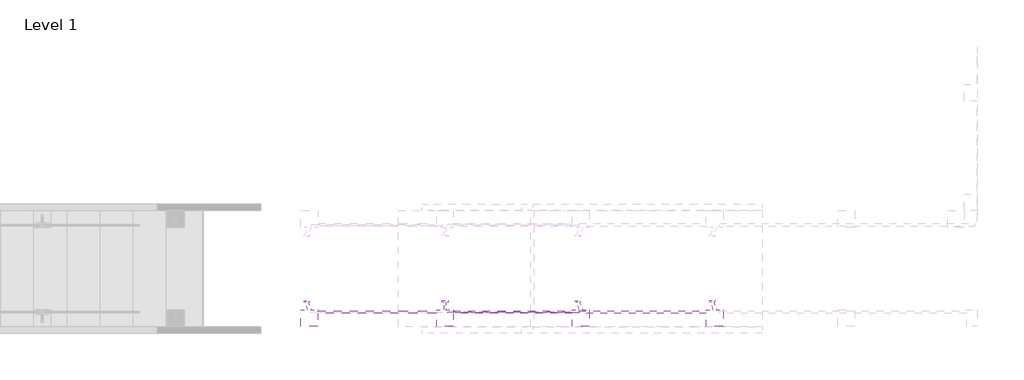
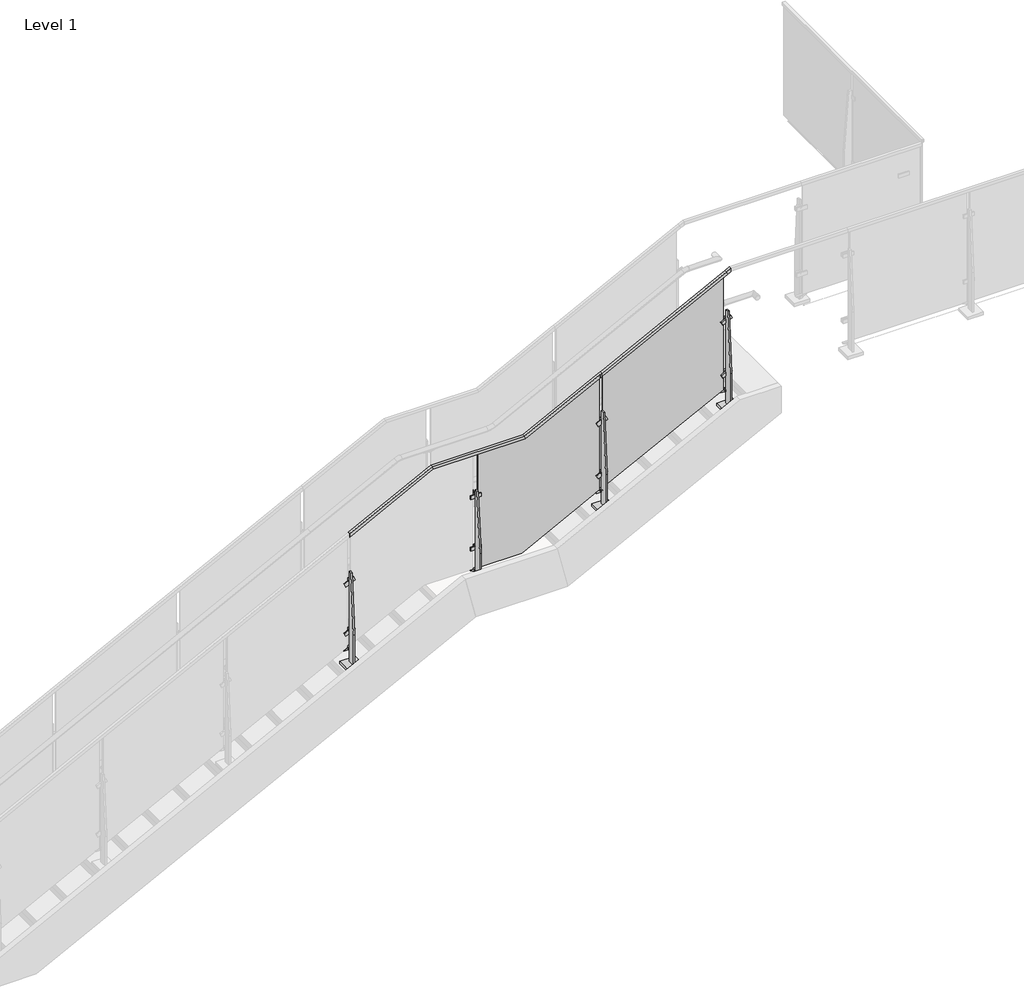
# One storey, part 23 of 37: 3 railings.
"""IFC4 building model written with IfcOpenShell, lengths in millimetres."""

from ifc_helpers import new_model, si_unit, point, frame, frame_2d, origin, place, context, project, spatial, polyline, circle_curve, trimmed, segment, composite_curve, outline, extrude, faceted_brep, transform, mapped, element, save
from components import baluster_landing_panel_viva_solo_upper_standard_glass_fb48f398

model = new_model("IFC4")

# Units and contexts
model_context = context("Model", 3, world=origin())
ifc_project = project(units=[si_unit("LENGTHUNIT", "METRE", prefix="MILLI")], contexts=[model_context])

# Site, building, storey
site = spatial("IfcSite", under=ifc_project)
building = spatial("IfcBuilding", under=site)
storey = spatial("IfcBuildingStorey", under=building, Name="Level 1", Elevation=0.0)

# Railings
placement = place(None, origin())
baluster_landing_panel_viva_solo_upper_standard_glass_shape = baluster_landing_panel_viva_solo_upper_standard_glass_fb48f398(model_context)
element("IfcRailing", 1, ObjectType="Baluster-Landing-Panel-VIVA-SOLO-Upper : Standard_Glass", at=placement, inside=storey, context=model_context, shape_type="MappedRepresentation", body=[
    mapped(baluster_landing_panel_viva_solo_upper_standard_glass_shape, transform((7346.0498081, 3769.9019198, 2120.3478261), x_axis=(0.0, 1.0, 0.0), y_axis=(-1.0, 0.0, 0.0), z_axis=(0.0, 0.0, 1.0))),
])
element("IfcRailing", 2, ObjectType="VIVA-SOLO-Glass-Floor Mount-Landing", at=placement, inside=storey, context=model_context, shape_type="SolidModel", body=[
    faceted_brep([(5228.4873344, 3796.747149, 2882.4016967), (5228.4873344, 3818.972149, 2882.4016967), (5228.4873344, 3818.972149, 2853.9005081), (5228.4873344, 3814.209649, 2853.9005081), (5228.4873344, 3814.209649, 2877.0577238), (5228.4873344, 3801.509649, 2877.0577238), (5228.4873344, 3801.509649, 2853.9005081), (5228.4873344, 3796.747149, 2853.9005081), (5926.9873344, 3796.747149, 3237.9478261), (5926.9873344, 3818.972149, 3237.9478261), (5933.0798778, 3818.972149, 3212.5478261), (5933.0798778, 3814.209649, 3212.5478261), (5928.1296863, 3814.209649, 3233.1853261), (5928.1296863, 3801.509649, 3233.1853261), (5933.0798778, 3801.509649, 3212.5478261), (5933.0798778, 3796.747149, 3212.5478261), (6708.0373344, 3796.747149, 3237.9478261), (6708.0373344, 3818.972149, 3237.9478261), (6714.1298778, 3818.972149, 3212.5478261), (6714.1298778, 3814.209649, 3212.5478261), (6709.1796863, 3814.209649, 3233.1853261), (6709.1796863, 3801.509649, 3233.1853261), (6714.1298778, 3801.509649, 3212.5478261), (6714.1298778, 3796.747149, 3212.5478261), (7362.0873344, 3796.747149, 3570.8682927), (7362.0873344, 3796.747149, 3542.3671041), (7362.0873344, 3801.509649, 3542.3671041), (7362.0873344, 3801.509649, 3565.5243198), (7362.0873344, 3814.209649, 3565.5243198), (7362.0873344, 3814.209649, 3542.3671041), (7362.0873344, 3818.972149, 3542.3671041), (7362.0873344, 3818.972149, 3570.8682927)], [[[0, 1, 2, 3, 4, 5, 6, 7]], [[1, 0, 8, 9]], [[2, 1, 9, 10]], [[3, 2, 10, 11]], [[4, 3, 11, 12]], [[5, 4, 12, 13]], [[6, 5, 13, 14]], [[7, 6, 14, 15]], [[0, 7, 15, 8]], [[9, 8, 16, 17]], [[10, 9, 17, 18]], [[11, 10, 18, 19]], [[12, 11, 19, 20]], [[13, 12, 20, 21]], [[14, 13, 21, 22]], [[15, 14, 22, 23]], [[8, 15, 23, 16]], [[24, 25, 26, 27, 28, 29, 30, 31]], [[17, 16, 24, 31]], [[18, 17, 31, 30]], [[19, 18, 30, 29]], [[20, 19, 29, 28]], [[21, 20, 28, 27]], [[22, 21, 27, 26]], [[23, 22, 26, 25]], [[16, 23, 25, 24]]]),
    extrude(outline(polyline([(3791.984649, 2907.7478261), (3791.984649, 2120.3478261), (3728.484649, 2120.3478261), (3728.484649, 2374.3478261), (3766.584649, 2907.7478261), (3791.984649, 2907.7478261)])), frame((6288.9373344, 0.0, 0.0), z_axis=(1.0, 0.0, 0.0), x_axis=(0.0, 1.0, 0.0)), (0.0, 0.0, 1.0), 12.7),
    extrude(outline(composite_curve([segment(polyline([(3885.9804058, 2898.1528559), (3887.3575153, 2900.5380794)]), True, "CONTINUOUS"), segment(trimmed(circle_curve(frame_2d((3892.4038669, 2925.43174)), 25.4), [point((3887.3575153, 2900.5380794))], [point((3898.7900802, 2900.8476744))], True, "CARTESIAN"), True, "CONTINUOUS"), segment(polyline([(3898.7900802, 2900.8476744), (3898.7900802, 2898.1431499)]), True, "CONTINUOUS"), segment(trimmed(circle_curve(frame_2d((3892.4038669, 2922.7272155)), 25.4), [point((3898.7900802, 2898.1431499))], [point((3885.9804058, 2898.1528559))], False, "CARTESIAN"), True, "CONTINUOUS")], self_intersect=False)), frame((6269.8833871, 0.0, 0.0), z_axis=(1.0, 0.0, 0.0), x_axis=(0.0, 1.0, 0.0)), (0.0, 0.0, 1.0), 51.8675839),
    extrude(outline(polyline([(3898.347149, 2897.9541454), (3898.347149, 2894.7791454), (3834.847149, 2832.8666454), (3823.734649, 2832.8666454), (3823.734649, 2863.0291454), (3826.909649, 2863.0291454), (3885.647149, 2894.7791454), (3885.647149, 2897.9541454), (3898.347149, 2897.9541454)])), frame((6288.7819804, 0.0, 0.0), z_axis=(1.0, 0.0, 0.0), x_axis=(0.0, 1.0, 0.0)), (0.0, 0.0, 1.0), 12.6482649),
    extrude(outline(polyline([(6361.1685844, 3826.115899), (6361.1685844, 3694.353399), (6229.4060844, 3694.353399), (6229.4060844, 3826.115899), (6361.1685844, 3826.115899)])), frame((0.0, 0.0, 2120.3478261), z_axis=(0.0, 0.0, 1.0), x_axis=(1.0, 0.0, 0.0)), (0.0, 0.0, 1.0), 25.4),
    extrude(outline(polyline([(6250.8373344, 3801.509649), (6339.7373344, 3801.509649), (6339.7373344, 3791.984649), (6250.8373344, 3791.984649), (6250.8373344, 3801.509649)])), frame((0.0, 0.0, 2372.3388955), z_axis=(0.0, 0.0, 1.0), x_axis=(1.0, 0.0, 0.0)), (0.0, 0.0, 1.0), 31.75),
    extrude(outline(polyline([(6250.8373344, 3801.509649), (6339.7373344, 3801.509649), (6339.7373344, 3791.984649), (6250.8373344, 3791.984649), (6250.8373344, 3801.509649)])), frame((0.0, 0.0, 2831.6470448), z_axis=(0.0, 0.0, 1.0), x_axis=(1.0, 0.0, 0.0)), (0.0, 0.0, 1.0), 31.75),
    extrude(outline(polyline([(6250.8373344, 3823.734649), (6339.7373344, 3823.734649), (6339.7373344, 3814.209649), (6250.8373344, 3814.209649), (6250.8373344, 3823.734649)])), frame((0.0, 0.0, 2372.3388955), z_axis=(0.0, 0.0, 1.0), x_axis=(1.0, 0.0, 0.0)), (0.0, 0.0, 1.0), 31.75),
    extrude(outline(polyline([(6250.8373344, 3823.734649), (6339.7373344, 3823.734649), (6339.7373344, 3814.209649), (6250.8373344, 3814.209649), (6250.8373344, 3823.734649)])), frame((0.0, 0.0, 2831.6470448), z_axis=(0.0, 0.0, 1.0), x_axis=(1.0, 0.0, 0.0)), (0.0, 0.0, 1.0), 31.75),
    extrude(outline(polyline([(2196.5478261, 6339.7373344), (2196.5478261, 6250.8373344), (2190.1978261, 6250.8373344), (2168.2831774, 6295.2873344), (2190.1978261, 6339.7373344), (2196.5478261, 6339.7373344)])), frame((0.0, 3801.509649, 0.0), z_axis=(0.0, 1.0, 0.0), x_axis=(0.0, 0.0, 1.0)), (0.0, 0.0, 1.0), 12.7),
    extrude(outline(composite_curve([segment(trimmed(circle_curve(frame_2d((2388.2138955, 6295.2873344)), 6.35), [point((2388.2138955, 6301.6373344))], [point((2388.2138955, 6288.9373344))], False, "CARTESIAN"), True, "CONTINUOUS"), segment(trimmed(circle_curve(frame_2d((2388.2138955, 6295.2873344)), 6.35), [point((2388.2138955, 6288.9373344))], [point((2388.2138955, 6301.6373344))], False, "CARTESIAN"), True, "CONTINUOUS")], self_intersect=False)), frame((0.0, 3801.509649, 0.0), z_axis=(0.0, 1.0, 0.0), x_axis=(0.0, 0.0, 1.0)), (0.0, 0.0, 1.0), 12.7),
    extrude(outline(composite_curve([segment(trimmed(circle_curve(frame_2d((2847.5220448, 6295.2873344)), 6.35), [point((2847.5220448, 6301.6373344))], [point((2847.5220448, 6288.9373344))], False, "CARTESIAN"), True, "CONTINUOUS"), segment(trimmed(circle_curve(frame_2d((2847.5220448, 6295.2873344)), 6.35), [point((2847.5220448, 6288.9373344))], [point((2847.5220448, 6301.6373344))], False, "CARTESIAN"), True, "CONTINUOUS")], self_intersect=False)), frame((0.0, 3801.509649, 0.0), z_axis=(0.0, 1.0, 0.0), x_axis=(0.0, 0.0, 1.0)), (0.0, 0.0, 1.0), 12.7),
    extrude(outline(composite_curve([segment(trimmed(circle_curve(frame_2d((2180.6728261, 6295.2873344)), 11.1125), [point((2180.6728261, 6306.3998344))], [point((2180.6728261, 6284.1748344))], False, "CARTESIAN"), True, "CONTINUOUS"), segment(trimmed(circle_curve(frame_2d((2180.6728261, 6295.2873344)), 11.1125), [point((2180.6728261, 6284.1748344))], [point((2180.6728261, 6306.3998344))], False, "CARTESIAN"), True, "CONTINUOUS")], self_intersect=False)), frame((0.0, 3791.984649, 0.0), z_axis=(0.0, 1.0, 0.0), x_axis=(0.0, 0.0, 1.0)), (0.0, 0.0, 1.0), 25.4),
    extrude(outline(polyline([(-12.7, 0.0), (-12.7, 3.175), (50.8, 65.0875), (61.9125, 65.0875), (61.9125, 34.9249999), (58.7375, 34.9249999), (0.0, 3.175), (0.0, 0.0), (-12.7, 0.0)])), frame((7334.466871, 3885.647149, 3185.7729269), z_axis=(0.8987940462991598, 0.0, 0.4383711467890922), x_axis=(0.0, -1.0, 0.0)), (0.0, 0.0, 1.0), 12.7),
    extrude(outline(polyline([(3791.984649, 3240.6682927), (3791.984649, 2385.3913043), (3728.484649, 2385.3913043), (3728.484649, 2707.2682927), (3766.584649, 3240.6682927), (3791.984649, 3240.6682927)])), frame((7355.7373344, 0.0, 0.0), z_axis=(1.0, 0.0, 0.0), x_axis=(0.0, 1.0, 0.0)), (0.0, 0.0, 1.0), 12.7),
    extrude(outline(polyline([(0.0, -88.9000001), (0.0, 0.0), (9.525, 0.0), (9.525, -88.9000001), (0.0, -88.9000001)])), frame((7409.0060477, 3801.509649, 2681.3748204), z_axis=(-0.4383711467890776, 0.0, 0.8987940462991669), x_axis=(0.0, -1.0, 0.0)), (0.0, 0.0, 1.0), 31.75),
    extrude(outline(polyline([(0.0, -88.9000001), (0.0, 0.0), (9.525, 0.0), (9.525, -88.9000001), (0.0, -88.9000001)])), frame((7409.0060477, 3823.734649, 3148.8285059), z_axis=(-0.4383711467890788, 0.0, 0.8987940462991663), x_axis=(0.0, -1.0, 0.0)), (0.0, 0.0, 1.0), 31.75),
    extrude(outline(polyline([(0.0, -88.9000001), (0.0, 0.0), (9.525, 0.0), (9.525, -88.9000001), (0.0, -88.9000001)])), frame((7409.0060477, 3801.509649, 3148.8285059), z_axis=(-0.4383711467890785, 0.0, 0.8987940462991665), x_axis=(0.0, -1.0, 0.0)), (0.0, 0.0, 1.0), 31.75),
    extrude(outline(polyline([(0.0, -88.9000001), (0.0, 0.0), (9.525, 0.0), (9.525, -88.9000001), (0.0, -88.9000001)])), frame((7409.0060477, 3823.734649, 2681.3748204), z_axis=(-0.4383711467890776, 0.0, 0.8987940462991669), x_axis=(0.0, -1.0, 0.0)), (0.0, 0.0, 1.0), 31.75),
    extrude(outline(polyline([(2547.8861353, 7397.8574331), (2553.5934775, 7395.0737763), (2514.6222826, 7315.1709856), (2508.9149404, 7317.9546424), (2508.7037821, 7367.5127874), (2547.8861353, 7397.8574331)])), frame((0.0, 3801.509649, 0.0), z_axis=(0.0, 1.0, 0.0), x_axis=(0.0, 0.0, 1.0)), (0.0, 0.0, 1.0), 12.7),
    extrude(outline(composite_curve([segment(polyline([(0.0, 0.0), (2.8057897, -1e-07)]), True, "CONTINUOUS"), segment(trimmed(circle_curve(frame_2d((26.8875078, 8.0765616)), 25.4), [point((2.8057897, -1e-07))], [point((8.7901893, -9.7460942))], True, "CARTESIAN"), True, "CONTINUOUS"), segment(polyline([(8.7901893, -9.7460942), (6.4034747, -11.1240645)]), True, "CONTINUOUS"), segment(trimmed(circle_curve(frame_2d((24.5007934, 6.6985914)), 25.4), [point((6.4034747, -11.1240645))], [point((0.0, 0.0))], False, "CARTESIAN"), True, "CONTINUOUS")], self_intersect=False)), frame((7318.5457535, 3885.5479026, 3174.9597282), z_axis=(0.8987940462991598, 0.0, 0.4383711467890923), x_axis=(-0.37964054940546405, 0.5000000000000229, 0.7783784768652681)), (0.0, 0.0, 1.0), 50.8),
    extrude(outline(polyline([(7427.9685844, 3826.115899), (7427.9685844, 3694.353399), (7296.2060844, 3694.353399), (7296.2060844, 3826.115899), (7427.9685844, 3826.115899)])), frame((0.0, 0.0, 2385.3913043), z_axis=(0.0, 0.0, 1.0), x_axis=(1.0, 0.0, 0.0)), (0.0, 0.0, 1.0), 25.4),
    extrude(outline(composite_curve([segment(trimmed(circle_curve(frame_2d((2677.2195227, 7362.0955103)), 6.35), [point((2677.2195227, 7368.4455103))], [point((2677.2195227, 7355.7455103))], False, "CARTESIAN"), True, "CONTINUOUS"), segment(trimmed(circle_curve(frame_2d((2677.2195227, 7362.0955103)), 6.35), [point((2677.2195227, 7355.7455103))], [point((2677.2195227, 7368.4455103))], False, "CARTESIAN"), True, "CONTINUOUS")], self_intersect=False)), frame((0.0, 3801.509649, 0.0), z_axis=(0.0, 1.0, 0.0), x_axis=(0.0, 0.0, 1.0)), (0.0, 0.0, 1.0), 12.7),
    extrude(outline(composite_curve([segment(trimmed(circle_curve(frame_2d((3143.6112639, 7362.0955103)), 6.35), [point((3143.6112639, 7368.4455103))], [point((3143.6112639, 7355.7455103))], False, "CARTESIAN"), True, "CONTINUOUS"), segment(trimmed(circle_curve(frame_2d((3143.6112639, 7362.0955103)), 6.35), [point((3143.6112639, 7355.7455103))], [point((3143.6112639, 7368.4455103))], False, "CARTESIAN"), True, "CONTINUOUS")], self_intersect=False)), frame((0.0, 3801.509649, 0.0), z_axis=(0.0, 1.0, 0.0), x_axis=(0.0, 0.0, 1.0)), (0.0, 0.0, 1.0), 12.7),
    extrude(outline(composite_curve([segment(trimmed(circle_curve(frame_2d((2519.9003816, 7362.0955103)), 11.1125), [point((2519.9003816, 7373.2080103))], [point((2519.9003816, 7350.9830103))], False, "CARTESIAN"), True, "CONTINUOUS"), segment(trimmed(circle_curve(frame_2d((2519.9003816, 7362.0955103)), 11.1125), [point((2519.9003816, 7350.9830103))], [point((2519.9003816, 7373.2080103))], False, "CARTESIAN"), True, "CONTINUOUS")], self_intersect=False)), frame((0.0, 3791.984649, 0.0), z_axis=(0.0, 1.0, 0.0), x_axis=(0.0, 0.0, 1.0)), (0.0, 0.0, 1.0), 25.4),
    extrude(outline(polyline([(-12.7, 0.0), (-12.7, 3.1749999), (50.8, 65.0874999), (61.9125, 65.0874999), (61.9125, 34.9249999), (58.7375, 34.9249999), (0.0, 3.1749999), (0.0, 0.0), (-12.7, 0.0)])), frame((5200.866871, 3885.647149, 2497.3063309), z_axis=(0.8987940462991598, 0.0, 0.4383711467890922), x_axis=(0.0, -1.0, 0.0)), (0.0, 0.0, 1.0), 12.7),
    extrude(outline(polyline([(3791.984649, 2552.2016967), (3791.984649, 1722.7826087), (3728.484649, 1722.7826087), (3728.484649, 2018.8016967), (3766.584649, 2552.2016967), (3791.984649, 2552.2016967)])), frame((5222.1373344, 0.0, 0.0), z_axis=(1.0, 0.0, 0.0), x_axis=(0.0, 1.0, 0.0)), (0.0, 0.0, 1.0), 12.7),
    extrude(outline(polyline([(0.0, -88.9000001), (0.0, 0.0), (9.525, 0.0), (9.525, -88.9000001), (0.0, -88.9000001)])), frame((5275.4060477, 3801.509649, 2018.7661247), z_axis=(-0.4383711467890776, 0.0, 0.8987940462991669), x_axis=(0.0, -1.0, 0.0)), (0.0, 0.0, 1.0), 31.75),
    extrude(outline(polyline([(0.0, -88.9000001), (0.0, 0.0), (9.525, 0.0), (9.525, -88.9000001), (0.0, -88.9000001)])), frame((5275.4060477, 3823.734649, 2460.3619099), z_axis=(-0.4383711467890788, 0.0, 0.8987940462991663), x_axis=(0.0, -1.0, 0.0)), (0.0, 0.0, 1.0), 31.75),
    extrude(outline(polyline([(0.0, -88.9000001), (0.0, 0.0), (9.525, 0.0), (9.525, -88.9000001), (0.0, -88.9000001)])), frame((5275.4060477, 3801.509649, 2460.3619099), z_axis=(-0.4383711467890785, 0.0, 0.8987940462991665), x_axis=(0.0, -1.0, 0.0)), (0.0, 0.0, 1.0), 31.75),
    extrude(outline(polyline([(0.0, -88.9000001), (0.0, 0.0), (9.525, 0.0), (9.525, -88.9000001), (0.0, -88.9000001)])), frame((5275.4060477, 3823.734649, 2018.7661247), z_axis=(-0.4383711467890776, 0.0, 0.8987940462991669), x_axis=(0.0, -1.0, 0.0)), (0.0, 0.0, 1.0), 31.75),
    extrude(outline(polyline([(1885.2774397, 5264.2574331), (1890.9847819, 5261.4737763), (1852.0135869, 5181.5709856), (1846.3062447, 5184.3546424), (1846.0950864, 5233.9127874), (1885.2774397, 5264.2574331)])), frame((0.0, 3801.509649, 0.0), z_axis=(0.0, 1.0, 0.0), x_axis=(0.0, 0.0, 1.0)), (0.0, 0.0, 1.0), 12.7),
    extrude(outline(composite_curve([segment(polyline([(0.0, 0.0), (2.8057897, 0.0)]), True, "CONTINUOUS"), segment(trimmed(circle_curve(frame_2d((26.8875079, 8.0765616)), 25.4), [point((2.8057897, 0.0))], [point((8.7901893, -9.7460942))], True, "CARTESIAN"), True, "CONTINUOUS"), segment(polyline([(8.7901893, -9.7460942), (6.4034747, -11.1240645)]), True, "CONTINUOUS"), segment(trimmed(circle_curve(frame_2d((24.5007934, 6.6985914)), 25.4), [point((6.4034747, -11.1240645))], [point((0.0, 0.0))], False, "CARTESIAN"), True, "CONTINUOUS")], self_intersect=False)), frame((5184.9457535, 3885.5479026, 2486.4931322), z_axis=(0.8987940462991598, 0.0, 0.4383711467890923), x_axis=(-0.37964054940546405, 0.5000000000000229, 0.7783784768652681)), (0.0, 0.0, 1.0), 50.8),
    extrude(outline(polyline([(5294.3685844, 3826.115899), (5294.3685844, 3694.353399), (5162.6060844, 3694.353399), (5162.6060844, 3826.115899), (5294.3685844, 3826.115899)])), frame((0.0, 0.0, 1722.7826087), z_axis=(0.0, 0.0, 1.0), x_axis=(1.0, 0.0, 0.0)), (0.0, 0.0, 1.0), 25.4),
    extrude(outline(composite_curve([segment(trimmed(circle_curve(frame_2d((2014.610827, 5228.4955103)), 6.35), [point((2014.610827, 5234.8455103))], [point((2014.610827, 5222.1455103))], False, "CARTESIAN"), True, "CONTINUOUS"), segment(trimmed(circle_curve(frame_2d((2014.610827, 5228.4955103)), 6.35), [point((2014.610827, 5222.1455103))], [point((2014.610827, 5234.8455103))], False, "CARTESIAN"), True, "CONTINUOUS")], self_intersect=False)), frame((0.0, 3801.509649, 0.0), z_axis=(0.0, 1.0, 0.0), x_axis=(0.0, 0.0, 1.0)), (0.0, 0.0, 1.0), 12.7),
    extrude(outline(composite_curve([segment(trimmed(circle_curve(frame_2d((2455.144668, 5228.4955103)), 6.35), [point((2455.144668, 5234.8455103))], [point((2455.144668, 5222.1455103))], False, "CARTESIAN"), True, "CONTINUOUS"), segment(trimmed(circle_curve(frame_2d((2455.144668, 5228.4955103)), 6.35), [point((2455.144668, 5222.1455103))], [point((2455.144668, 5234.8455103))], False, "CARTESIAN"), True, "CONTINUOUS")], self_intersect=False)), frame((0.0, 3801.509649, 0.0), z_axis=(0.0, 1.0, 0.0), x_axis=(0.0, 0.0, 1.0)), (0.0, 0.0, 1.0), 12.7),
    extrude(outline(composite_curve([segment(trimmed(circle_curve(frame_2d((1857.2916859, 5228.4955103)), 11.1125), [point((1857.2916859, 5239.6080103))], [point((1857.2916859, 5217.3830103))], False, "CARTESIAN"), True, "CONTINUOUS"), segment(trimmed(circle_curve(frame_2d((1857.2916859, 5228.4955103)), 11.1125), [point((1857.2916859, 5217.3830103))], [point((1857.2916859, 5239.6080103))], False, "CARTESIAN"), True, "CONTINUOUS")], self_intersect=False)), frame((0.0, 3791.984649, 0.0), z_axis=(0.0, 1.0, 0.0), x_axis=(0.0, 0.0, 1.0)), (0.0, 0.0, 1.0), 25.4),
])
element("IfcRailing", 3, ObjectType="VIVA-SOLO-Glass-Floor Mount-Stair_Right_Upper", at=placement, inside=storey, context=model_context, shape_type="SolidModel", body=[
    faceted_brep([(7349.3873344, 3796.747149, 3564.4038176), (7349.3873344, 3818.972149, 3564.4038176), (7349.3873344, 3818.972149, 3535.902629), (7349.3873344, 3814.209649, 3535.902629), (7349.3873344, 3814.209649, 3559.0598447), (7349.3873344, 3801.509649, 3559.0598447), (7349.3873344, 3801.509649, 3535.902629), (7349.3873344, 3796.747149, 3535.902629), (8416.1873344, 3796.747149, 4107.4197243), (8416.1873344, 3818.972149, 4107.4197243), (8427.7094971, 3818.972149, 4084.7834754), (8427.7094971, 3814.209649, 4084.7834754), (8418.3477399, 3814.209649, 4103.1754276), (8418.3477399, 3801.509649, 4103.1754276), (8427.7094971, 3801.509649, 4084.7834754), (8427.7094971, 3796.747149, 4084.7834754), (8455.6367094, 3796.747149, 4127.5), (8455.6367094, 3796.747149, 4098.9988114), (8455.6367094, 3801.509649, 4098.9988114), (8455.6367094, 3801.509649, 4122.1560271), (8455.6367094, 3814.209649, 4122.1560271), (8455.6367094, 3814.209649, 4098.9988114), (8455.6367094, 3818.972149, 4098.9988114), (8455.6367094, 3818.972149, 4127.5)], [[[0, 1, 2, 3, 4, 5, 6, 7]], [[1, 0, 8, 9]], [[2, 1, 9, 10]], [[3, 2, 10, 11]], [[4, 3, 11, 12]], [[5, 4, 12, 13]], [[6, 5, 13, 14]], [[7, 6, 14, 15]], [[0, 7, 15, 8]], [[16, 17, 18, 19, 20, 21, 22, 23]], [[9, 8, 16, 23]], [[10, 9, 23, 22]], [[11, 10, 22, 21]], [[12, 11, 21, 20]], [[13, 12, 20, 19]], [[14, 13, 19, 18]], [[15, 14, 18, 17]], [[8, 15, 17, 16]]]),
    extrude(outline(polyline([(4089.1567741, 8391.170381), (3571.9987678, 7375.170381), (2544.2557794, 7375.170381), (3061.4137858, 8391.170381), (4089.1567741, 8391.170381)])), frame((0.0, 3801.509649, 0.0), z_axis=(0.0, 1.0, 0.0), x_axis=(0.0, 0.0, 1.0)), (0.0, 0.0, 1.0), 12.7),
    extrude(outline(polyline([(-12.7, 0.0), (-12.7, 3.175), (50.8, 65.0875), (61.9125, 65.0875), (61.9125, 34.9249999), (58.7375, 34.9249999), (0.0, 3.175), (0.0, 0.0), (-12.7, 0.0)])), frame((8388.566871, 3885.647149, 3722.3243585), z_axis=(0.8987940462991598, 0.0, 0.4383711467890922), x_axis=(0.0, -1.0, 0.0)), (0.0, 0.0, 1.0), 12.7),
    extrude(outline(polyline([(3791.984649, 3777.2197243), (3791.984649, 2915.4782609), (3728.484649, 2915.4782609), (3728.484649, 3243.8197243), (3766.584649, 3777.2197243), (3791.984649, 3777.2197243)])), frame((8409.8373344, 0.0, 0.0), z_axis=(1.0, 0.0, 0.0), x_axis=(0.0, 1.0, 0.0)), (0.0, 0.0, 1.0), 12.7),
    extrude(outline(polyline([(0.0, -88.9000001), (0.0, 0.0), (9.525, 0.0), (9.525, -88.9000001), (0.0, -88.9000001)])), frame((8463.1060477, 3801.509649, 3211.4617769), z_axis=(-0.4383711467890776, 0.0, 0.8987940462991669), x_axis=(0.0, -1.0, 0.0)), (0.0, 0.0, 1.0), 31.75),
    extrude(outline(polyline([(0.0, -88.9000001), (0.0, 0.0), (9.525, 0.0), (9.525, -88.9000001), (0.0, -88.9000001)])), frame((8463.1060477, 3823.734649, 3685.3799375), z_axis=(-0.4383711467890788, 0.0, 0.8987940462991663), x_axis=(0.0, -1.0, 0.0)), (0.0, 0.0, 1.0), 31.75),
    extrude(outline(polyline([(0.0, -88.9000001), (0.0, 0.0), (9.525, 0.0), (9.525, -88.9000001), (0.0, -88.9000001)])), frame((8463.1060477, 3801.509649, 3685.3799375), z_axis=(-0.4383711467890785, 0.0, 0.8987940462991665), x_axis=(0.0, -1.0, 0.0)), (0.0, 0.0, 1.0), 31.75),
    extrude(outline(polyline([(0.0, -88.9000001), (0.0, 0.0), (9.525, 0.0), (9.525, -88.9000001), (0.0, -88.9000001)])), frame((8463.1060477, 3823.734649, 3211.4617769), z_axis=(-0.4383711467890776, 0.0, 0.8987940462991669), x_axis=(0.0, -1.0, 0.0)), (0.0, 0.0, 1.0), 31.75),
    extrude(outline(polyline([(3077.9730919, 8451.9574331), (3083.6804341, 8449.1737763), (3044.7092391, 8369.2709856), (3039.0018969, 8372.0546424), (3038.7907386, 8421.6127874), (3077.9730919, 8451.9574331)])), frame((0.0, 3801.509649, 0.0), z_axis=(0.0, 1.0, 0.0), x_axis=(0.0, 0.0, 1.0)), (0.0, 0.0, 1.0), 12.7),
    extrude(outline(composite_curve([segment(polyline([(0.0, 0.0), (2.8057897, -1e-07)]), True, "CONTINUOUS"), segment(trimmed(circle_curve(frame_2d((26.8875078, 8.0765616)), 25.4), [point((2.8057897, -1e-07))], [point((8.7901893, -9.7460942))], True, "CARTESIAN"), True, "CONTINUOUS"), segment(polyline([(8.7901893, -9.7460942), (6.4034747, -11.1240645)]), True, "CONTINUOUS"), segment(trimmed(circle_curve(frame_2d((24.5007934, 6.6985914)), 25.4), [point((6.4034747, -11.1240645))], [point((0.0, 0.0))], False, "CARTESIAN"), True, "CONTINUOUS")], self_intersect=False)), frame((8372.6457535, 3885.5479026, 3711.5111598), z_axis=(0.8987940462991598, 0.0, 0.4383711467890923), x_axis=(-0.379640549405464, 0.500000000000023, 0.7783784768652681)), (0.0, 0.0, 1.0), 50.8),
    extrude(outline(polyline([(8482.0685844, 3826.115899), (8482.0685844, 3694.353399), (8350.3060844, 3694.353399), (8350.3060844, 3826.115899), (8482.0685844, 3826.115899)])), frame((0.0, 0.0, 2915.4782609), z_axis=(0.0, 0.0, 1.0), x_axis=(1.0, 0.0, 0.0)), (0.0, 0.0, 1.0), 25.4),
    extrude(outline(composite_curve([segment(trimmed(circle_curve(frame_2d((3207.3064792, 8416.1955103)), 6.35), [point((3207.3064792, 8422.5455103))], [point((3207.3064792, 8409.8455103))], False, "CARTESIAN"), True, "CONTINUOUS"), segment(trimmed(circle_curve(frame_2d((3207.3064792, 8416.1955103)), 6.35), [point((3207.3064792, 8409.8455103))], [point((3207.3064792, 8422.5455103))], False, "CARTESIAN"), True, "CONTINUOUS")], self_intersect=False)), frame((0.0, 3801.509649, 0.0), z_axis=(0.0, 1.0, 0.0), x_axis=(0.0, 0.0, 1.0)), (0.0, 0.0, 1.0), 12.7),
    extrude(outline(composite_curve([segment(trimmed(circle_curve(frame_2d((3680.1626955, 8416.1955103)), 6.35), [point((3680.1626955, 8422.5455103))], [point((3680.1626955, 8409.8455103))], False, "CARTESIAN"), True, "CONTINUOUS"), segment(trimmed(circle_curve(frame_2d((3680.1626955, 8416.1955103)), 6.35), [point((3680.1626955, 8409.8455103))], [point((3680.1626955, 8422.5455103))], False, "CARTESIAN"), True, "CONTINUOUS")], self_intersect=False)), frame((0.0, 3801.509649, 0.0), z_axis=(0.0, 1.0, 0.0), x_axis=(0.0, 0.0, 1.0)), (0.0, 0.0, 1.0), 12.7),
    extrude(outline(composite_curve([segment(trimmed(circle_curve(frame_2d((3049.9873381, 8416.1955103)), 11.1125), [point((3049.9873381, 8427.3080103))], [point((3049.9873381, 8405.0830103))], False, "CARTESIAN"), True, "CONTINUOUS"), segment(trimmed(circle_curve(frame_2d((3049.9873381, 8416.1955103)), 11.1125), [point((3049.9873381, 8405.0830103))], [point((3049.9873381, 8427.3080103))], False, "CARTESIAN"), True, "CONTINUOUS")], self_intersect=False)), frame((0.0, 3791.984649, 0.0), z_axis=(0.0, 1.0, 0.0), x_axis=(0.0, 0.0, 1.0)), (0.0, 0.0, 1.0), 25.4),
])

save(model, "model.ifc")
